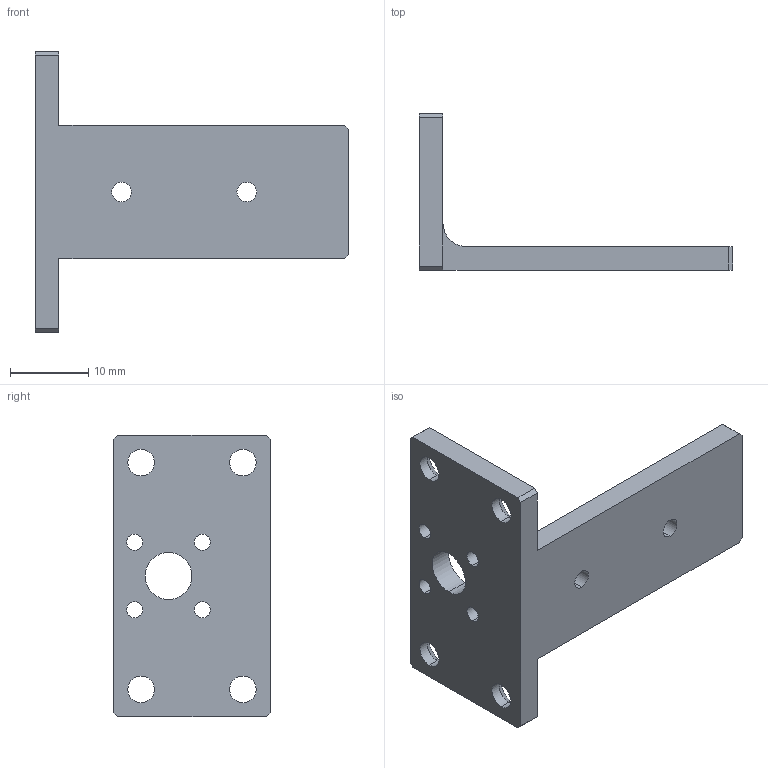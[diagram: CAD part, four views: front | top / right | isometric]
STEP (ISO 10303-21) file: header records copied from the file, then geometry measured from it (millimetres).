
FILE_DESCRIPTION (( 'STEP AP214' ), '1' );
FILE_NAME ('乐扰.746152.029 鱼铍铌.STEP', '2025-05-27T14:24:24', ( '' ), ( '' ), 'SwSTEP 2.0', 'SolidWorks 2019', '' );
FILE_SCHEMA (( 'AUTOMOTIVE_DESIGN' ));
Length unit declared in the file: millimetre
Products named in the file (1): 乐扰.746152.029 鱼铍铌
Bounding box: 40 x 20 x 36 mm (x, y, z)
Volume: 3737.8 mm3; surface area: 3338 mm2
Topology: 1 solids, 1 shells, 47 faces, 127 edges, 82 vertices
Faces by surface type: cylinder 23, plane 16, cone 8
Entity records: 1701 total; most frequent: DIRECTION 277, CARTESIAN_POINT 257, ORIENTED_EDGE 254, EDGE_CURVE 127, AXIS2_PLACEMENT_3D 102, VERTEX_POINT 82, VECTOR 73, LINE 73
